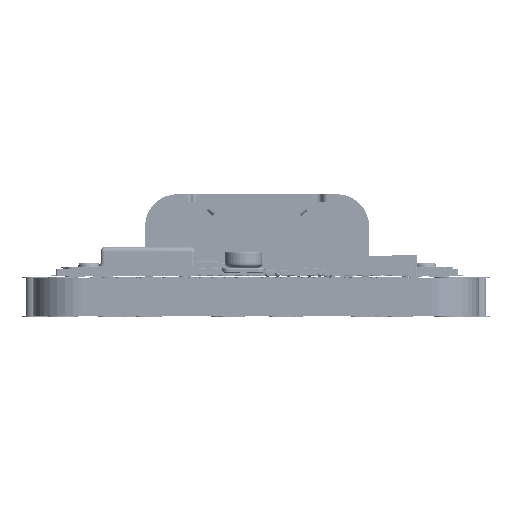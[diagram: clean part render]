
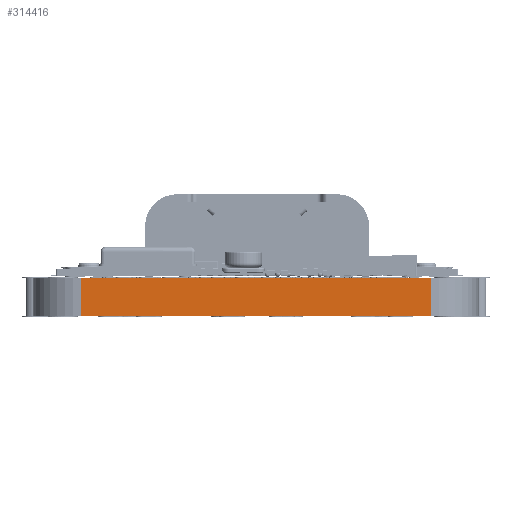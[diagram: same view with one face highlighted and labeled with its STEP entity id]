
A CAD part, left-side view. The second image highlights one B-rep face of the part: STEP entity #314416.
In plain terms, the highlighted planar face has unit normal (-1, 0, 0).
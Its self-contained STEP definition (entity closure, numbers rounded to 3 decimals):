
#312397 = VERTEX_POINT('',#312398);
#312398 = CARTESIAN_POINT('',(-10.478,6.985,0.));
#312405 = EDGE_CURVE('',#312406,#312397,#312408,.T.);
#312406 = VERTEX_POINT('',#312407);
#312407 = CARTESIAN_POINT('',(-10.478,-6.985,0.));
#312408 = LINE('',#312409,#312410);
#312409 = CARTESIAN_POINT('',(-10.478,-6.985,0.));
#312410 = VECTOR('',#312411,1.);
#312411 = DIRECTION('',(0.,1.,0.));
#313307 = VERTEX_POINT('',#313308);
#313308 = CARTESIAN_POINT('',(-10.478,6.985,1.51));
#313315 = EDGE_CURVE('',#313316,#313307,#313318,.T.);
#313316 = VERTEX_POINT('',#313317);
#313317 = CARTESIAN_POINT('',(-10.478,-6.985,1.51));
#313318 = LINE('',#313319,#313320);
#313319 = CARTESIAN_POINT('',(-10.478,-6.985,1.51));
#313320 = VECTOR('',#313321,1.);
#313321 = DIRECTION('',(0.,1.,0.));
#314405 = EDGE_CURVE('',#312406,#313316,#314406,.T.);
#314406 = LINE('',#314407,#314408);
#314407 = CARTESIAN_POINT('',(-10.478,-6.985,0.));
#314408 = VECTOR('',#314409,1.);
#314409 = DIRECTION('',(0.,0.,1.));
#314416 = ADVANCED_FACE('',(#314417),#314428,.T.);
#314417 = FACE_BOUND('',#314418,.T.);
#314418 = EDGE_LOOP('',(#314419,#314420,#314421,#314427));
#314419 = ORIENTED_EDGE('',*,*,#314405,.T.);
#314420 = ORIENTED_EDGE('',*,*,#313315,.T.);
#314421 = ORIENTED_EDGE('',*,*,#314422,.F.);
#314422 = EDGE_CURVE('',#312397,#313307,#314423,.T.);
#314423 = LINE('',#314424,#314425);
#314424 = CARTESIAN_POINT('',(-10.478,6.985,0.));
#314425 = VECTOR('',#314426,1.);
#314426 = DIRECTION('',(0.,0.,1.));
#314427 = ORIENTED_EDGE('',*,*,#312405,.F.);
#314428 = PLANE('',#314429);
#314429 = AXIS2_PLACEMENT_3D('',#314430,#314431,#314432);
#314430 = CARTESIAN_POINT('',(-10.478,-6.985,0.));
#314431 = DIRECTION('',(-1.,0.,0.));
#314432 = DIRECTION('',(0.,1.,0.));
